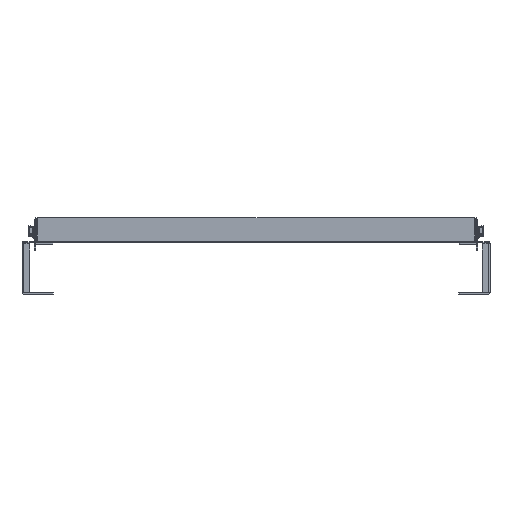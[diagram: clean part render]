
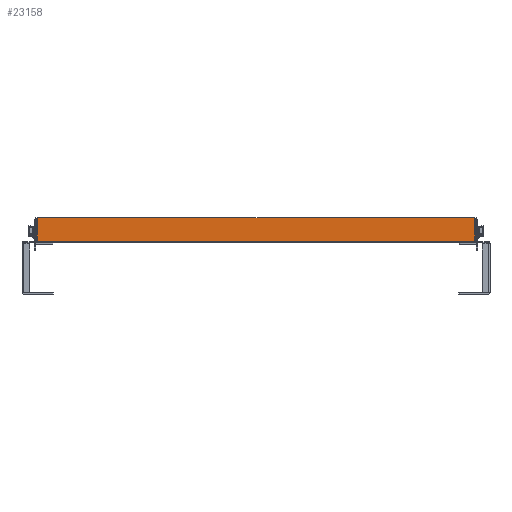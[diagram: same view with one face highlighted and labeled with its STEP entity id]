
A CAD part, front view. The second image highlights one B-rep face of the part: STEP entity #23158.
In plain terms, the highlighted planar face has unit normal (0, -1, 0) as drawn and (0, 1, 0) by its records, which use the part's own axes.
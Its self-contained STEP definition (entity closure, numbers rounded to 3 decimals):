
#248 = ORIENTED_EDGE ( 'NONE', *, *, #3410, .T. ) ;
#311 = ORIENTED_EDGE ( 'NONE', *, *, #21724, .T. ) ;
#587 = LINE ( 'NONE', #850, #35855 ) ;
#850 = CARTESIAN_POINT ( 'NONE',  ( -15.835, 1.5, -279. ) ) ;
#931 = LINE ( 'NONE', #33094, #2215 ) ;
#1190 = LINE ( 'NONE', #13960, #23738 ) ;
#2215 = VECTOR ( 'NONE', #49941, 1000. ) ;
#3331 = PLANE ( 'NONE',  #13479 ) ;
#3410 = EDGE_CURVE ( 'NONE', #49056, #24174, #37179, .T. ) ;
#3528 = CARTESIAN_POINT ( 'NONE',  ( 13.835, 1.5, 277. ) ) ;
#3749 = EDGE_CURVE ( 'NONE', #44548, #4009, #35790, .T. ) ;
#4009 = VERTEX_POINT ( 'NONE', #18054 ) ;
#5848 = DIRECTION ( 'NONE',  ( 1., 0., 0. ) ) ;
#6462 = EDGE_CURVE ( 'NONE', #49056, #9885, #45247, .T. ) ;
#6727 = CARTESIAN_POINT ( 'NONE',  ( -13.735, 1.5, 279. ) ) ;
#8135 = DIRECTION ( 'NONE',  ( 1., 0., 0. ) ) ;
#8305 = CARTESIAN_POINT ( 'NONE',  ( -13.4, 1.5, 279. ) ) ;
#8999 = CARTESIAN_POINT ( 'NONE',  ( -15.835, 1.5, 279. ) ) ;
#9608 = CARTESIAN_POINT ( 'NONE',  ( 13.4, 1.5, 279. ) ) ;
#9885 = VERTEX_POINT ( 'NONE', #6727 ) ;
#10599 = EDGE_CURVE ( 'NONE', #36316, #13038, #1190, .T. ) ;
#10759 = ORIENTED_EDGE ( 'NONE', *, *, #10599, .T. ) ;
#11078 = EDGE_CURVE ( 'NONE', #11530, #23625, #587, .T. ) ;
#11392 = AXIS2_PLACEMENT_3D ( 'NONE', #18926, #42879, #5848 ) ;
#11530 = VERTEX_POINT ( 'NONE', #33938 ) ;
#12799 = EDGE_CURVE ( 'NONE', #9885, #13038, #34288, .T. ) ;
#13038 = VERTEX_POINT ( 'NONE', #24444 ) ;
#13302 = ORIENTED_EDGE ( 'NONE', *, *, #11078, .T. ) ;
#13479 = AXIS2_PLACEMENT_3D ( 'NONE', #19951, #21559, #29722 ) ;
#13960 = CARTESIAN_POINT ( 'NONE',  ( -15.835, 1.5, -279. ) ) ;
#15879 = VECTOR ( 'NONE', #16334, 1000. ) ;
#16334 = DIRECTION ( 'NONE',  ( -1., 0., 0. ) ) ;
#18054 = CARTESIAN_POINT ( 'NONE',  ( 15.835, 1.5, -277. ) ) ;
#18832 = ORIENTED_EDGE ( 'NONE', *, *, #50175, .T. ) ;
#18926 = CARTESIAN_POINT ( 'NONE',  ( 13.835, 1.5, -277. ) ) ;
#19163 = CARTESIAN_POINT ( 'NONE',  ( 13.835, 1.5, 279. ) ) ;
#19951 = CARTESIAN_POINT ( 'NONE',  ( -15.835, 1.5, 279. ) ) ;
#20276 = EDGE_CURVE ( 'NONE', #25514, #24174, #36754, .T. ) ;
#21024 = DIRECTION ( 'NONE',  ( -1., 0., 0. ) ) ;
#21559 = DIRECTION ( 'NONE',  ( 0., -1., 0. ) ) ;
#21659 = DIRECTION ( 'NONE',  ( 1., 0., 0. ) ) ;
#21724 = EDGE_CURVE ( 'NONE', #25514, #44548, #30803, .T. ) ;
#22287 = VECTOR ( 'NONE', #21659, 1000. ) ;
#23158 = ADVANCED_FACE ( 'NONE', ( #36819 ), #3331, .F. ) ;
#23261 = CARTESIAN_POINT ( 'NONE',  ( 15.835, 1.5, 279. ) ) ;
#23625 = VERTEX_POINT ( 'NONE', #31875 ) ;
#23738 = VECTOR ( 'NONE', #34144, 1000. ) ;
#24174 = VERTEX_POINT ( 'NONE', #9608 ) ;
#24444 = CARTESIAN_POINT ( 'NONE',  ( -13.735, 1.5, -279. ) ) ;
#24853 = CARTESIAN_POINT ( 'NONE',  ( -13.4, 1.5, -279. ) ) ;
#25040 = DIRECTION ( 'NONE',  ( 0., 0., -1. ) ) ;
#25514 = VERTEX_POINT ( 'NONE', #19163 ) ;
#28583 = DIRECTION ( 'NONE',  ( 0., 1., 0. ) ) ;
#29457 = VECTOR ( 'NONE', #32749, 1000. ) ;
#29722 = DIRECTION ( 'NONE',  ( 1., 0., 0. ) ) ;
#30803 = CIRCLE ( 'NONE', #50769, 2. ) ;
#31875 = CARTESIAN_POINT ( 'NONE',  ( 13.4, 1.5, -279. ) ) ;
#32749 = DIRECTION ( 'NONE',  ( -1., 0., 0. ) ) ;
#33094 = CARTESIAN_POINT ( 'NONE',  ( 13.4, 1.5, -279. ) ) ;
#33467 = ORIENTED_EDGE ( 'NONE', *, *, #6462, .F. ) ;
#33582 = ORIENTED_EDGE ( 'NONE', *, *, #12799, .F. ) ;
#33938 = CARTESIAN_POINT ( 'NONE',  ( 13.835, 1.5, -279. ) ) ;
#34144 = DIRECTION ( 'NONE',  ( -1., 0., 0. ) ) ;
#34288 = LINE ( 'NONE', #50877, #47543 ) ;
#34325 = EDGE_LOOP ( 'NONE', ( #44062, #311, #41365, #18832, #13302, #48025, #10759, #33582, #33467, #248 ) ) ;
#34881 = CIRCLE ( 'NONE', #11392, 2. ) ;
#35748 = EDGE_CURVE ( 'NONE', #23625, #36316, #931, .T. ) ;
#35790 = LINE ( 'NONE', #23261, #53551 ) ;
#35855 = VECTOR ( 'NONE', #21024, 1000. ) ;
#36316 = VERTEX_POINT ( 'NONE', #24853 ) ;
#36730 = CARTESIAN_POINT ( 'NONE',  ( -13.4, 1.5, 279. ) ) ;
#36754 = LINE ( 'NONE', #37961, #15879 ) ;
#36819 = FACE_OUTER_BOUND ( 'NONE', #34325, .T. ) ;
#36861 = DIRECTION ( 'NONE',  ( 0., 0., -1. ) ) ;
#37179 = LINE ( 'NONE', #8305, #22287 ) ;
#37961 = CARTESIAN_POINT ( 'NONE',  ( -15.835, 1.5, 279. ) ) ;
#41365 = ORIENTED_EDGE ( 'NONE', *, *, #3749, .T. ) ;
#42879 = DIRECTION ( 'NONE',  ( 0., 1., 0. ) ) ;
#44062 = ORIENTED_EDGE ( 'NONE', *, *, #20276, .F. ) ;
#44548 = VERTEX_POINT ( 'NONE', #49772 ) ;
#45247 = LINE ( 'NONE', #8999, #29457 ) ;
#47543 = VECTOR ( 'NONE', #25040, 1000. ) ;
#48025 = ORIENTED_EDGE ( 'NONE', *, *, #35748, .T. ) ;
#49056 = VERTEX_POINT ( 'NONE', #36730 ) ;
#49772 = CARTESIAN_POINT ( 'NONE',  ( 15.835, 1.5, 277. ) ) ;
#49941 = DIRECTION ( 'NONE',  ( -1., 0., 0. ) ) ;
#50175 = EDGE_CURVE ( 'NONE', #4009, #11530, #34881, .T. ) ;
#50769 = AXIS2_PLACEMENT_3D ( 'NONE', #3528, #28583, #8135 ) ;
#50877 = CARTESIAN_POINT ( 'NONE',  ( -13.735, 1.5, 279. ) ) ;
#53551 = VECTOR ( 'NONE', #36861, 1000. ) ;
